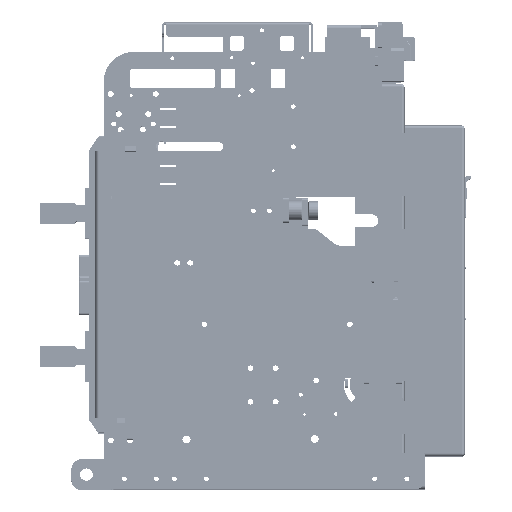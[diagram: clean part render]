
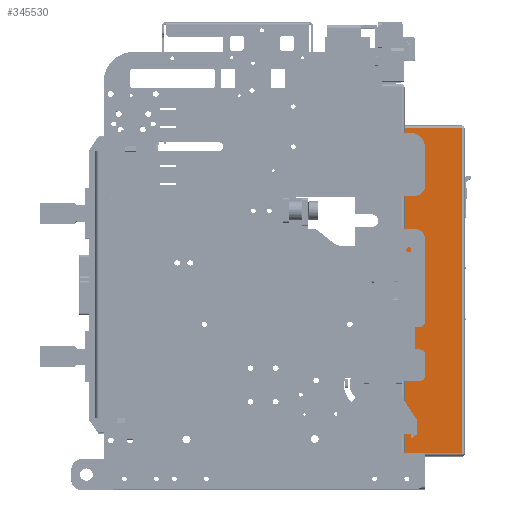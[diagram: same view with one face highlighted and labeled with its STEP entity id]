
A CAD part, top view. The second image highlights one B-rep face of the part: STEP entity #345530.
In plain terms, the highlighted planar face has unit normal (0, 0, 1) as drawn and (-1, 0, 0) by its records, which use the part's own axes.
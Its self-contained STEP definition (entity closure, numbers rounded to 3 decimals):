
#325251=DIRECTION('',(0.,0.,-1.));
#325252=VECTOR('',#325251,57.);
#325253=CARTESIAN_POINT('',(-135.,-175.65,106.));
#325254=LINE('',#325253,#325252);
#325255=DIRECTION('',(0.,0.,-1.));
#325256=VECTOR('',#325255,57.);
#325257=CARTESIAN_POINT('',(-135.,148.35,106.));
#325258=LINE('',#325257,#325256);
#325259=DIRECTION('',(0.,-1.,0.));
#325260=VECTOR('',#325259,324.);
#325261=CARTESIAN_POINT('',(-135.,148.35,106.));
#325262=LINE('',#325261,#325260);
#325564=DIRECTION('',(0.,-1.,0.));
#325565=VECTOR('',#325564,324.);
#325566=CARTESIAN_POINT('',(-135.,148.35,49.));
#325567=LINE('',#325566,#325565);
#339524=CARTESIAN_POINT('',(-135.,-175.65,106.));
#339526=VERTEX_POINT('',#339524);
#339550=CARTESIAN_POINT('',(-135.,-175.65,49.));
#339551=VERTEX_POINT('',#339550);
#339554=CARTESIAN_POINT('',(-135.,148.35,106.));
#339555=VERTEX_POINT('',#339554);
#339572=CARTESIAN_POINT('',(-135.,148.35,49.));
#339573=VERTEX_POINT('',#339572);
#345516=CARTESIAN_POINT('',(-135.,151.35,49.));
#345517=DIRECTION('',(-1.,0.,0.));
#345518=DIRECTION('',(0.,-1.,0.));
#345519=AXIS2_PLACEMENT_3D('',#345516,#345517,#345518);
#345520=PLANE('',#345519);
#345522=ORIENTED_EDGE('',*,*,#345521,.T.);
#345524=ORIENTED_EDGE('',*,*,#345523,.F.);
#345526=ORIENTED_EDGE('',*,*,#345525,.F.);
#345527=ORIENTED_EDGE('',*,*,#345508,.T.);
#345528=EDGE_LOOP('',(#345522,#345524,#345526,#345527));
#345529=FACE_OUTER_BOUND('',#345528,.F.);
#345530=ADVANCED_FACE('',(#345529),#345520,.T.);
#345508=EDGE_CURVE('',#339555,#339526,#325262,.T.);
#345521=EDGE_CURVE('',#339526,#339551,#325254,.T.);
#345523=EDGE_CURVE('',#339573,#339551,#325567,.T.);
#345525=EDGE_CURVE('',#339555,#339573,#325258,.T.);
